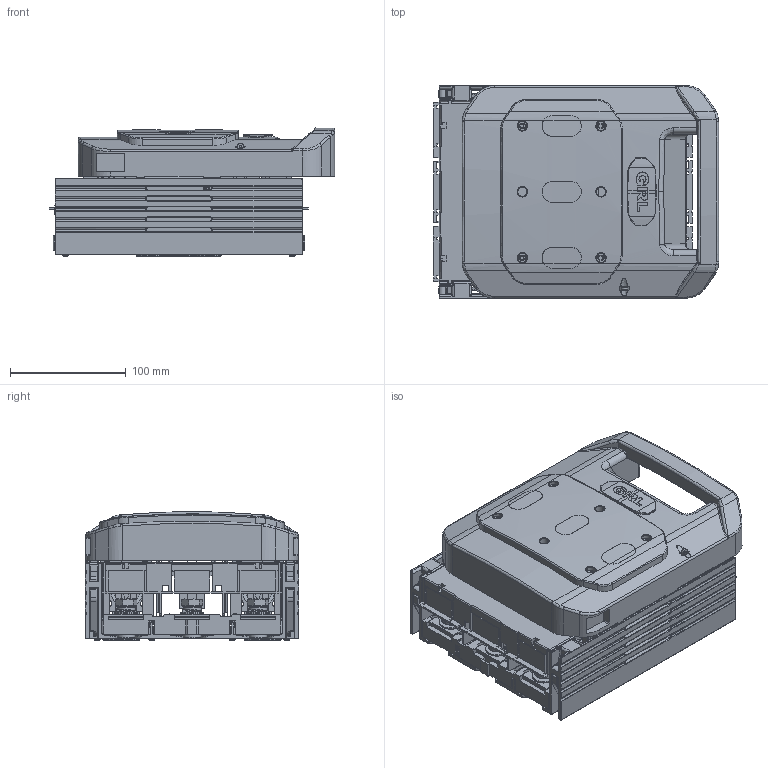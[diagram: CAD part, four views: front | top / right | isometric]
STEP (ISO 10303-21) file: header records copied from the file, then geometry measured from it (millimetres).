
FILE_DESCRIPTION(/* description */ (''),/* implementation_level */ '2;1');
FILE_NAME(/* name */ 'DNH1-250 30 新外观 总装-带铅封锁-外发',/* time_stamp */ '2025-01-09T09:53:34+08:00',/* author */ (''),/* organization */ (''),/* preprocessor_version */ 'ST-DEVELOPER v19.2',/* originating_system */ 'Rhino 8.2',/* authorisation */ '');
FILE_SCHEMA (('CONFIG_CONTROL_DESIGN'));
Products named in the file (1): Document
Bounding box: 246.75 x 184.7 x 110.81 mm (x, y, z)
Surface area: 482358.1 mm2 (no closed solid volume)
Topology: 0 solids, 108 shells, 3209 faces, 13158 edges, 9626 vertices
Faces by surface type: plane 1277, cylinder 1135, bspline 797
Entity records: 183451 total; most frequent: CARTESIAN_POINT 97128, ORIENTED_EDGE 19877, EDGE_CURVE 13124, B_SPLINE_CURVE_WITH_KNOTS 9684, VERTEX_POINT 9626, DIRECTION 8914, AXIS2_PLACEMENT_3D 5663, EDGE_LOOP 3458
